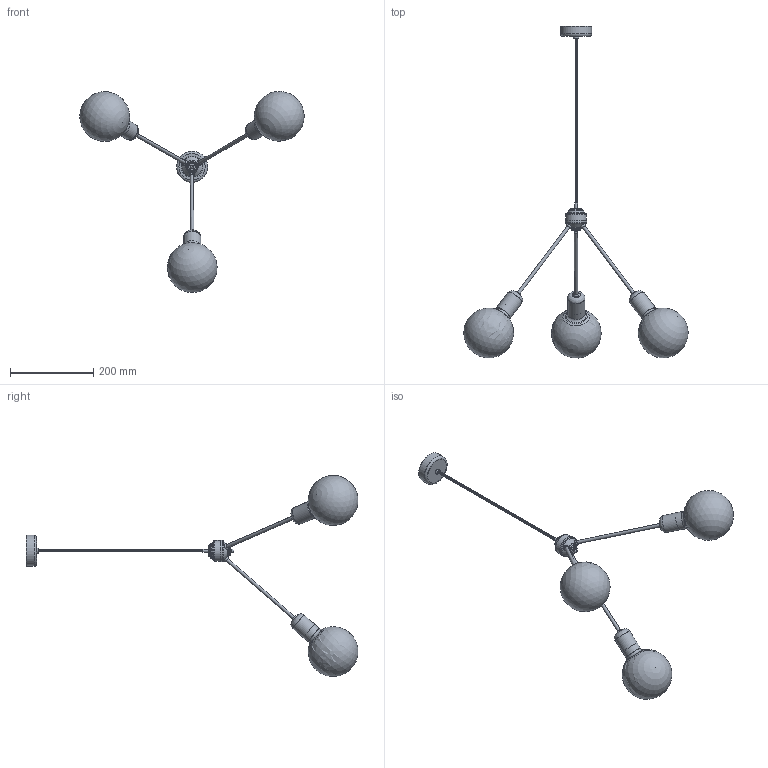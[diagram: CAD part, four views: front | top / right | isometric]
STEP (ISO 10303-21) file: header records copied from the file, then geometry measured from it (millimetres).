
FILE_DESCRIPTION(/* description */ (''),/* implementation_level */ '2;1');
FILE_NAME(/* name */ 'C:\Users\Dominika\Desktop\Modele CZARNY\TRIO\LAMPA TRIO.stp',/* time_stamp */ '2019-12-05T20:56:24+01:00',/* author */ ('Dominika'),/* organization */ (''),/* preprocessor_version */ 'ST-DEVELOPER v17',/* originating_system */ 'Autodesk Inventor 2019',/* authorisation */ '');
FILE_SCHEMA (('AUTOMOTIVE_DESIGN { 1 0 10303 214 3 1 1 }'));
Length unit declared in the file: millimetre
Products named in the file (11): LAMPA TRIO; FUNK kulka; THYHM mocowanie kloszy; TRIO tulejka; BLUES kabel II; BLUES kabel I; T14 mocowanie do ściany; TRIO rura; b56 pierscien maly; T56 klosz; klosz II
Assembly tree (420 placements, depth 2):
  LAMPA TRIO
    FUNK kulka
    THYHM mocowanie kloszy
    TRIO tulejka
    BLUES kabel II  x200
    BLUES kabel I  x200
    T14 mocowanie do ściany
    b56 pierscien maly  x7
    TRIO rura  x3
    T56 klosz  x3
    klosz II  x3
Bounding box: 539.16 x 797.19 x 483.24 mm (x, y, z)
Volume: 2938170.4 mm3; surface area: 263446.3 mm2
Topology: 420 solids, 420 shells, 1304 faces, 1460 edges, 986 vertices
Faces by surface type: plane 836, cylinder 428, torus 17, bspline 10, cone 8, sphere 5
Full cylindrical faces by diameter (mm): 4 x1, 5 x400, 7 x1, 8 x11, 38 x3, 40 x4, 42 x3, 50 x2, 52 x1, 71 x1, 75 x1
Entity records: 5696 total; most frequent: DIRECTION 1212, CARTESIAN_POINT 910, AXIS2_PLACEMENT_3D 588, PRODUCT_DEFINITION_SHAPE 431, ITEM_DEFINED_TRANSFORMATION 420, CONTEXT_DEPENDENT_SHAPE_REPRESENTATION 420, NEXT_ASSEMBLY_USAGE_OCCURRENCE 420, ORIENTED_EDGE 278
